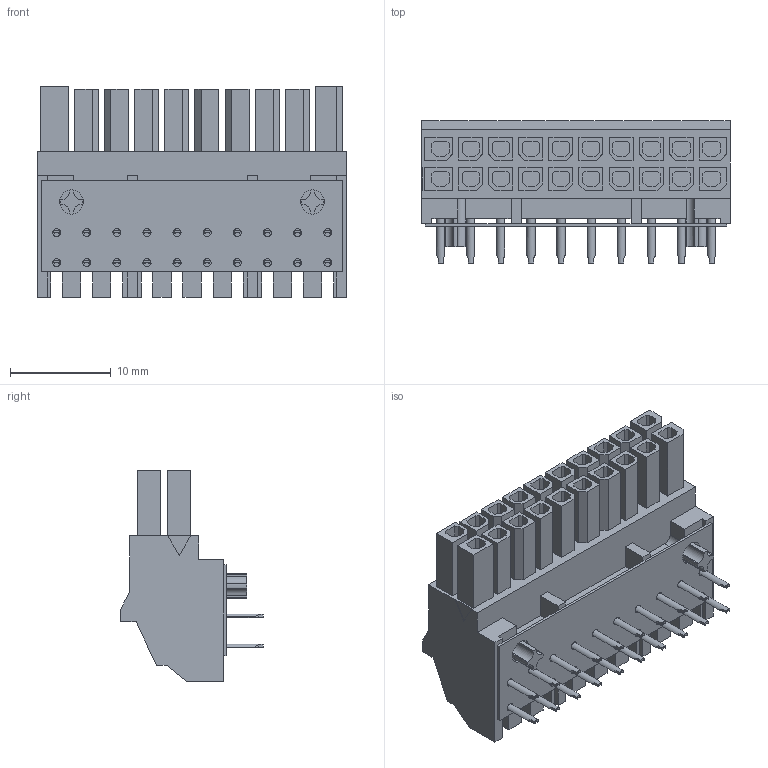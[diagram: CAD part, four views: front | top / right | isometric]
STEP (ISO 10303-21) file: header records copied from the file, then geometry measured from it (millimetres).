
FILE_DESCRIPTION((''),'2;1');
FILE_NAME('447642003','2015-08-28T',('me'),(''),'PRO/ENGINEER BY PARAMETRIC TECHNOLOGY CORPORATION, 2011490','PRO/ENGINEER BY PARAMETRIC TECHNOLOGY CORPORATION, 2011490','');
FILE_SCHEMA(('CONFIG_CONTROL_DESIGN'));
Length unit declared in the file: inch
Products named in the file (1): 447642003
Bounding box: 30.71 x 14.17 x 20.98 mm (x, y, z)
Volume: 3474.5 mm3; surface area: 4736.9 mm2
Topology: 1 solids, 1 shells, 916 faces, 2798 edges, 1872 vertices
Faces by surface type: plane 812, cylinder 104
Entity records: 31075 total; most frequent: CARTESIAN_POINT 5599, ORIENTED_EDGE 5464, DIRECTION 4966, EDGE_CURVE 2732, VECTOR 2384, LINE 2384, VERTEX_POINT 1784, AXIS2_PLACEMENT_3D 1291
